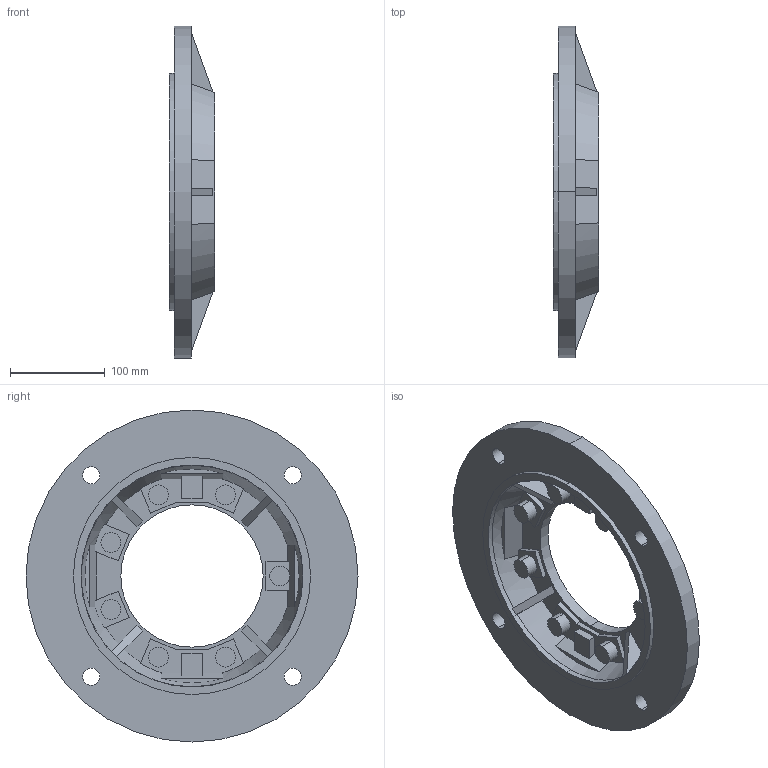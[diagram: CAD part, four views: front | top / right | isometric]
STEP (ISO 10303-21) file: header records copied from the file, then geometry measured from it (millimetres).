
FILE_DESCRIPTION(/* description */ (''),/* implementation_level */ '2;1');
FILE_NAME(/* name */ '2_FLANGIA (CAMPANA) LATERALE FB H102',/* time_stamp */ '2025-10-31T14:26:51+01:00',/* author */ (''),/* organization */ (''),/* preprocessor_version */ 'ST-DEVELOPER v19.2',/* originating_system */ 'Rhino 8.23',/* authorisation */ '');
FILE_SCHEMA (('CONFIG_CONTROL_DESIGN'));
Length unit declared in the file: millimetre
Products named in the file (2): Document; FU102FB-23
Bounding box: 47.5 x 350 x 350 mm (x, y, z)
Volume: 1458446.1 mm3; surface area: 235706.7 mm2
Topology: 1 solids, 1 shells, 122 faces, 333 edges, 222 vertices
Faces by surface type: plane 80, cylinder 32, bspline 10
Entity records: 5184 total; most frequent: CARTESIAN_POINT 1358, ORIENTED_EDGE 666, EDGE_CURVE 333, DIRECTION 310, B_SPLINE_CURVE_WITH_KNOTS 229, VERTEX_POINT 222, AXIS2_PLACEMENT_3D 211, EDGE_LOOP 141
